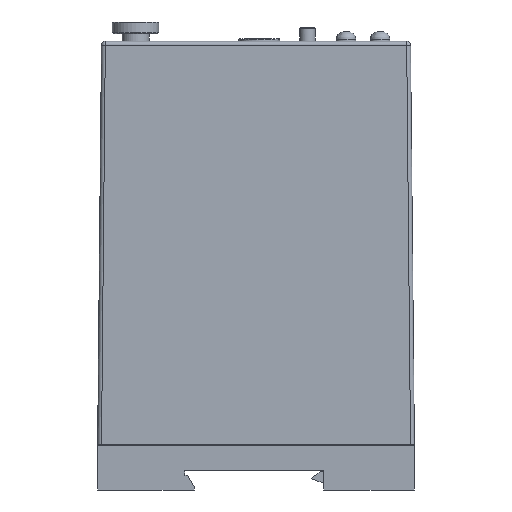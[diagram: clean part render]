
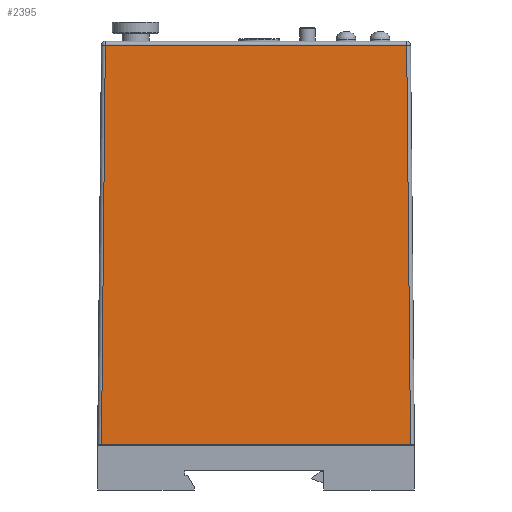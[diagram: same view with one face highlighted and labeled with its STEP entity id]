
A CAD part, left-side view. The second image highlights one B-rep face of the part: STEP entity #2395.
In plain terms, the highlighted planar face has unit normal (-1, 0, 0.017).
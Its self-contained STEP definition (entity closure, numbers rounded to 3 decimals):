
#2395 = ADVANCED_FACE ( 'NONE', ( #24338 ), #35735, .F. ) ;
#2940 = DIRECTION ( 'NONE',  ( 0.017, 0.01, 1. ) ) ;
#22184 = CARTESIAN_POINT ( 'NONE',  ( 1.75, 0., 104.5 ) ) ;
#24338 = FACE_OUTER_BOUND ( 'NONE', #62696, .T. ) ;
#25229 = VERTEX_POINT ( 'NONE', #143007 ) ;
#35735 = PLANE ( 'NONE',  #55035 ) ;
#37198 = VECTOR ( 'NONE', #2940, 1000. ) ;
#38431 = ORIENTED_EDGE ( 'NONE', *, *, #67873, .T. ) ;
#42103 = VERTEX_POINT ( 'NONE', #94941 ) ;
#44637 = VECTOR ( 'NONE', #172353, 1000. ) ;
#52972 = EDGE_CURVE ( 'NONE', #134923, #25229, #112407, .T. ) ;
#55035 = AXIS2_PLACEMENT_3D ( 'NONE', #22184, #143516, #62850 ) ;
#57322 = EDGE_CURVE ( 'NONE', #42103, #134923, #144664, .T. ) ;
#62696 = EDGE_LOOP ( 'NONE', ( #38431, #106342, #170566, #107621 ) ) ;
#62850 = DIRECTION ( 'NONE',  ( 0., -1., 0. ) ) ;
#67873 = EDGE_CURVE ( 'NONE', #130678, #42103, #157661, .T. ) ;
#76615 = VECTOR ( 'NONE', #124686, 1000. ) ;
#79505 = CARTESIAN_POINT ( 'NONE',  ( 0., 0., 0. ) ) ;
#80486 = LINE ( 'NONE', #118115, #44637 ) ;
#84098 = CARTESIAN_POINT ( 'NONE',  ( 1.734, 81., 103.517 ) ) ;
#85959 = VECTOR ( 'NONE', #161458, 1000. ) ;
#94941 = CARTESIAN_POINT ( 'NONE',  ( 0., 1., 0. ) ) ;
#98052 = CARTESIAN_POINT ( 'NONE',  ( 1.734, 1.99, 103.517 ) ) ;
#106342 = ORIENTED_EDGE ( 'NONE', *, *, #57322, .T. ) ;
#107621 = ORIENTED_EDGE ( 'NONE', *, *, #154939, .T. ) ;
#112407 = LINE ( 'NONE', #84098, #76615 ) ;
#116682 = CARTESIAN_POINT ( 'NONE',  ( 0., 81., 0. ) ) ;
#118115 = CARTESIAN_POINT ( 'NONE',  ( 1.763, 79.993, 105.265 ) ) ;
#124686 = DIRECTION ( 'NONE',  ( 0., 1., 0. ) ) ;
#130678 = VERTEX_POINT ( 'NONE', #116682 ) ;
#134923 = VERTEX_POINT ( 'NONE', #98052 ) ;
#143007 = CARTESIAN_POINT ( 'NONE',  ( 1.734, 80.01, 103.517 ) ) ;
#143516 = DIRECTION ( 'NONE',  ( 1., 0., -0.017 ) ) ;
#144664 = LINE ( 'NONE', #164379, #37198 ) ;
#154939 = EDGE_CURVE ( 'NONE', #25229, #130678, #80486, .T. ) ;
#157661 = LINE ( 'NONE', #79505, #85959 ) ;
#161458 = DIRECTION ( 'NONE',  ( 0., -1., 0. ) ) ;
#164379 = CARTESIAN_POINT ( 'NONE',  ( 1.75, 2., 104.481 ) ) ;
#170566 = ORIENTED_EDGE ( 'NONE', *, *, #52972, .T. ) ;
#172353 = DIRECTION ( 'NONE',  ( -0.017, 0.01, -1. ) ) ;
